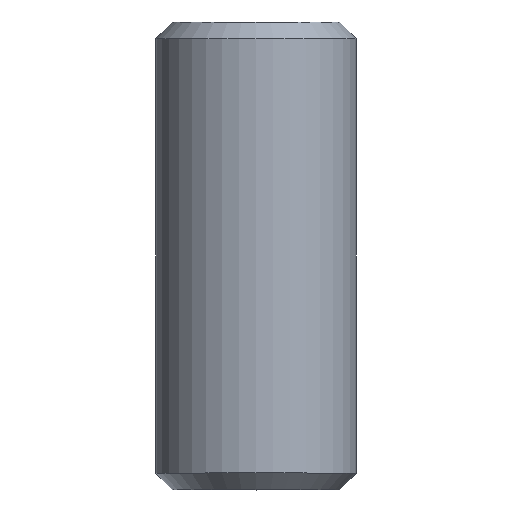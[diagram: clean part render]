
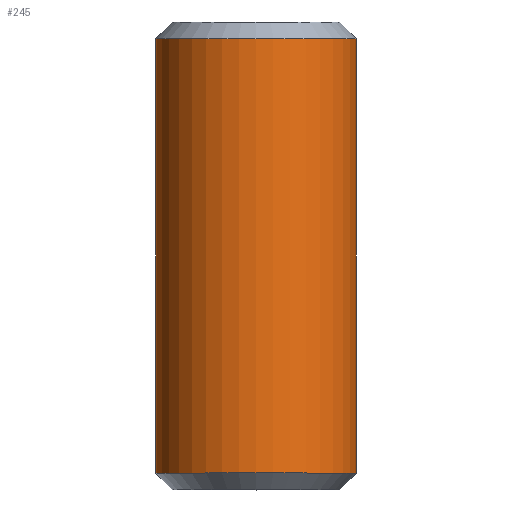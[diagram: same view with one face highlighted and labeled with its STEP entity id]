
A CAD part, top view. The second image highlights one B-rep face of the part: STEP entity #245.
In plain terms, the highlighted cylindrical face has radius 3 mm (diameter 6 mm), a partial arc.
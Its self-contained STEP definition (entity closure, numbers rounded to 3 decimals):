
#44=CARTESIAN_POINT('',(0.,0.5,0.));
#45=DIRECTION('',(0.,1.,0.));
#46=DIRECTION('',(-1.,0.,0.));
#47=AXIS2_PLACEMENT_3D('',#44,#45,#46);
#53=DIRECTION('',(0.,1.,0.));
#54=VECTOR('',#53,13.);
#55=CARTESIAN_POINT('',(-3.,0.5,0.));
#56=LINE('',#55,#54);
#57=DIRECTION('',(0.,1.,0.));
#58=VECTOR('',#57,13.);
#59=CARTESIAN_POINT('',(3.,0.5,0.));
#60=LINE('',#59,#58);
#80=CARTESIAN_POINT('',(0.,13.5,0.));
#81=DIRECTION('',(0.,1.,0.));
#82=DIRECTION('',(-1.,0.,0.));
#83=AXIS2_PLACEMENT_3D('',#80,#81,#82);
#165=CARTESIAN_POINT('',(3.,0.5,0.));
#166=CARTESIAN_POINT('',(-3.,0.5,0.));
#167=VERTEX_POINT('',#165);
#168=VERTEX_POINT('',#166);
#173=CARTESIAN_POINT('',(3.,13.5,0.));
#174=CARTESIAN_POINT('',(-3.,13.5,0.));
#175=VERTEX_POINT('',#173);
#176=VERTEX_POINT('',#174);
#231=CARTESIAN_POINT('',(0.,0.,0.));
#232=DIRECTION('',(0.,1.,0.));
#233=DIRECTION('',(1.,0.,0.));
#234=AXIS2_PLACEMENT_3D('',#231,#232,#233);
#235=CYLINDRICAL_SURFACE('',#234,3.);
#236=ORIENTED_EDGE('',*,*,#225,.F.);
#238=ORIENTED_EDGE('',*,*,#237,.T.);
#240=ORIENTED_EDGE('',*,*,#239,.T.);
#242=ORIENTED_EDGE('',*,*,#241,.F.);
#243=EDGE_LOOP('',(#236,#238,#240,#242));
#244=FACE_OUTER_BOUND('',#243,.F.);
#245=ADVANCED_FACE('',(#244),#235,.T.);
#48=CIRCLE('',#47,3.);
#84=CIRCLE('',#83,3.);
#225=EDGE_CURVE('',#168,#167,#48,.T.);
#237=EDGE_CURVE('',#168,#176,#56,.T.);
#239=EDGE_CURVE('',#176,#175,#84,.T.);
#241=EDGE_CURVE('',#167,#175,#60,.T.);
